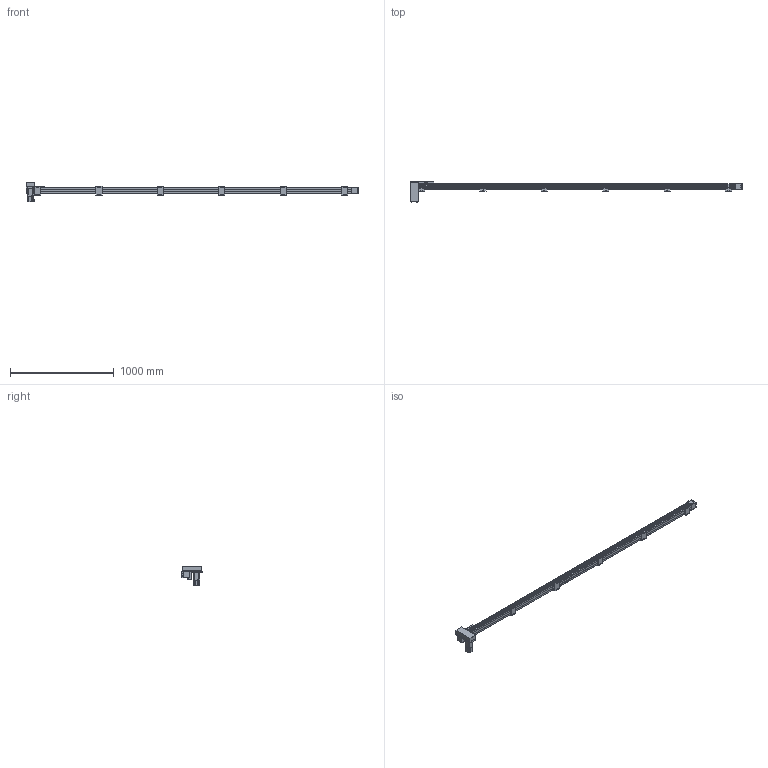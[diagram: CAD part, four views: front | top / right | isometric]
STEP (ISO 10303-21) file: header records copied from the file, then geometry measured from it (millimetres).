
FILE_DESCRIPTION(/* description */ ('STEP AP214'),/* implementation_level */ '2;1');
FILE_NAME(/* name */ 'SK60-P13-S2900-RD-T40-C1-N(0)',/* time_stamp */ '2023-04-06T04:57:32+02:00',/* author */ ('License CC BY-ND 4.0'),/* organization */ ('CADENAS'),/* preprocessor_version */ 'ST-DEVELOPER v19.3',/* originating_system */ 'PARTsolutions',/* authorisation */ ' ');
FILE_SCHEMA (('AUTOMOTIVE_DESIGN {1 0 10303 214 3 1 1}'));
Length unit declared in the file: millimetre
Products named in the file (10): SK60-P13-S2900-RD-T40-C1-N(0); PSC140-sensor; SK60-S450_seat; SK60-S450-BL-C1_slider; SK60_body3; SK60_body6; SK60-BL_body2; T40-p1; SK60-RD_fb; SK60-S2900-RD-C1_body
Assembly tree (20 placements, depth 2):
  SK60-P13-S2900-RD-T40-C1-N(0)
    PSC140-sensor  x3
    SK60-S450_seat  x6
    SK60-S450-BL-C1_slider
    SK60_body3  x3
    SK60_body6  x2
    SK60-BL_body2  x2
    T40-p1
    SK60-RD_fb
    SK60-S2900-RD-C1_body
Bounding box: 3205.5 x 199 x 189.7 mm (x, y, z)
Volume: 12065752.8 mm3; surface area: 1409472.6 mm2
Topology: 20 solids, 20 shells, 986 faces, 2440 edges, 1605 vertices
Faces by surface type: plane 620, cylinder 326, cone 38, torus 2
Full cylindrical faces by diameter (mm): 2.8 x3, 3.3 x4, 4 x2, 4.5 x30, 4.6 x3, 4.917 x32, 5 x6, 5.478 x4, 5.5 x35, 6.5 x12, 7 x2, 8 x4, 8.5 x4, 9.988 x4, 10 x24, 14 x1, 47 x3, 50 x2
Entity records: 18687 total; most frequent: DIRECTION 3192, CARTESIAN_POINT 3154, ORIENTED_EDGE 2940, EDGE_CURVE 1470, AXIS2_PLACEMENT_3D 1072, LINE 1048, VECTOR 1048, VERTEX_POINT 1034
